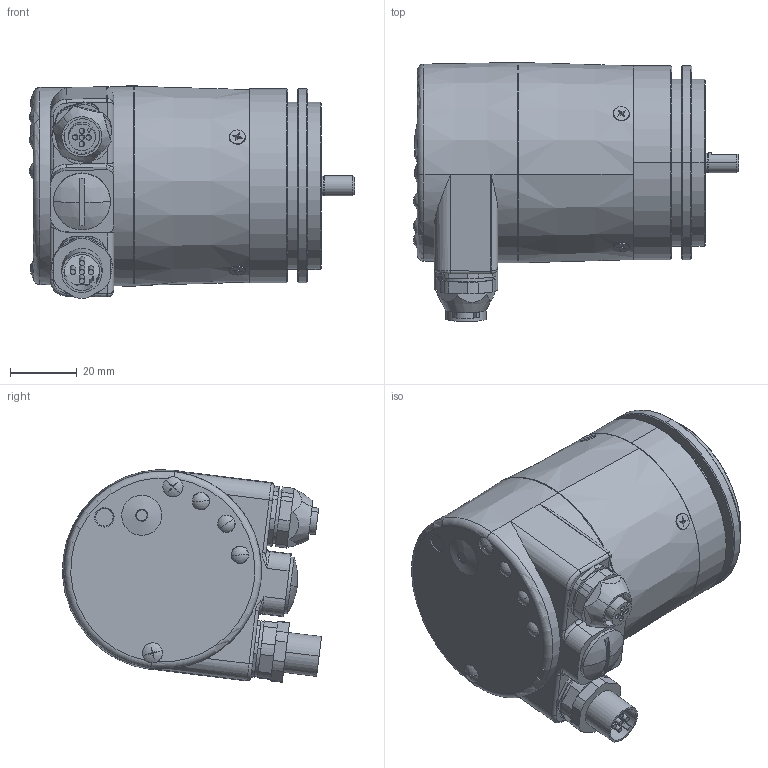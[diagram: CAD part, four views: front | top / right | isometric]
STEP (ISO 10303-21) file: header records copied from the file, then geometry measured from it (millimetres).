
FILE_DESCRIPTION (( 'STEP AP214' ), '1' );
FILE_NAME ('5868.2122.XXXX.STEP', '2008-06-25T07:00:56', ( 'admin' ), ( 'Fritz Kübler GmbH' ), 'SwSTEP 2.0', 'SolidWorks 2007', '' );
FILE_SCHEMA (( 'AUTOMOTIVE_DESIGN' ));
Length unit declared in the file: millimetre
Products named in the file (1): 5868.2122.XXXX
Bounding box: 97.2 x 77.38 x 63.55 mm (x, y, z)
Surface area: 29828.8 mm2 (no closed solid volume)
Topology: 0 solids, 22 shells, 397 faces, 1009 edges, 643 vertices
Faces by surface type: plane 167, cylinder 145, cone 46, torus 17, sphere 13, bspline 9
Entity records: 16969 total; most frequent: CARTESIAN_POINT 2851, DIRECTION 2180, ORIENTED_EDGE 1874, EDGE_CURVE 1004, AXIS2_PLACEMENT_3D 832, VERTEX_POINT 643, VECTOR 516, LINE 516
